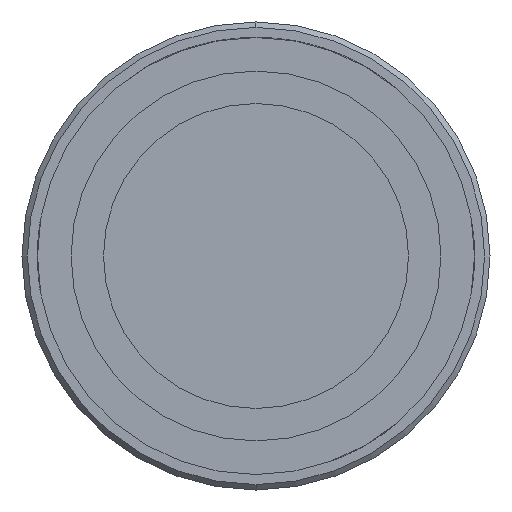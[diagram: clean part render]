
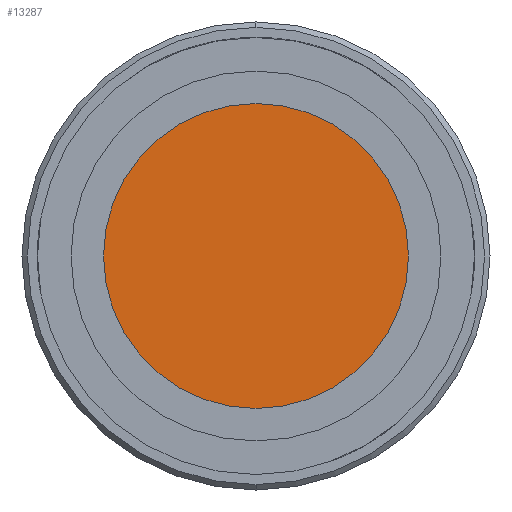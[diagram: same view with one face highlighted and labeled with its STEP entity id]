
A CAD part, left-side view. The second image highlights one B-rep face of the part: STEP entity #13287.
In plain terms, the highlighted planar face has unit normal (-1, 0, 0).
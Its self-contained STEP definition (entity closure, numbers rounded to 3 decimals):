
#967 = EDGE_CURVE ( 'NONE', #21434, #36022, #4301, .T. ) ;
#2941 = DIRECTION ( 'NONE',  ( -1., 0., 0. ) ) ;
#3134 = AXIS2_PLACEMENT_3D ( 'NONE', #10237, #27398, #7124 ) ;
#4301 = CIRCLE ( 'NONE', #24026, 14.4 ) ;
#7124 = DIRECTION ( 'NONE',  ( 0., 0., -1. ) ) ;
#8939 = EDGE_LOOP ( 'NONE', ( #24361, #42716 ) ) ;
#9773 = EDGE_CURVE ( 'NONE', #36022, #21434, #40207, .T. ) ;
#10237 = CARTESIAN_POINT ( 'NONE',  ( -4.826, 0., 0. ) ) ;
#10909 = DIRECTION ( 'NONE',  ( 0., 0., 1. ) ) ;
#12644 = FACE_OUTER_BOUND ( 'NONE', #8939, .T. ) ;
#13287 = ADVANCED_FACE ( 'NONE', ( #12644 ), #37482, .F. ) ;
#17996 = CARTESIAN_POINT ( 'NONE',  ( -4.826, 0., 0. ) ) ;
#21434 = VERTEX_POINT ( 'NONE', #27354 ) ;
#23664 = CARTESIAN_POINT ( 'NONE',  ( -4.826, 0., 0. ) ) ;
#24026 = AXIS2_PLACEMENT_3D ( 'NONE', #17996, #31191, #10909 ) ;
#24361 = ORIENTED_EDGE ( 'NONE', *, *, #9773, .T. ) ;
#24701 = AXIS2_PLACEMENT_3D ( 'NONE', #23664, #2941, #33469 ) ;
#25927 = CARTESIAN_POINT ( 'NONE',  ( -4.826, 0., 14.4 ) ) ;
#27354 = CARTESIAN_POINT ( 'NONE',  ( -4.826, 0., -14.4 ) ) ;
#27398 = DIRECTION ( 'NONE',  ( 1., 0., 0. ) ) ;
#31191 = DIRECTION ( 'NONE',  ( -1., 0., 0. ) ) ;
#33469 = DIRECTION ( 'NONE',  ( 0., 0., 1. ) ) ;
#36022 = VERTEX_POINT ( 'NONE', #25927 ) ;
#37482 = PLANE ( 'NONE',  #3134 ) ;
#40207 = CIRCLE ( 'NONE', #24701, 14.4 ) ;
#42716 = ORIENTED_EDGE ( 'NONE', *, *, #967, .T. ) ;
